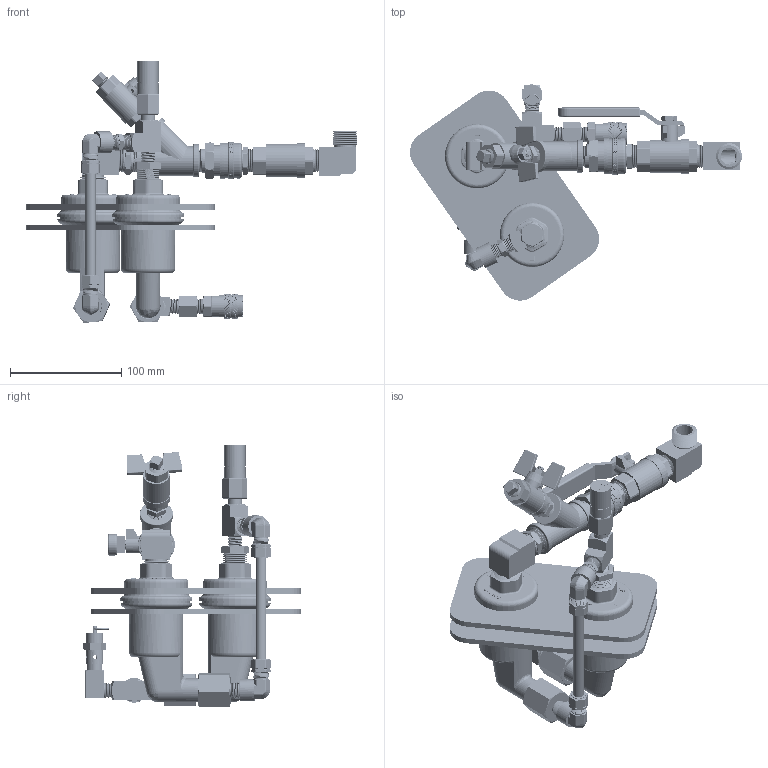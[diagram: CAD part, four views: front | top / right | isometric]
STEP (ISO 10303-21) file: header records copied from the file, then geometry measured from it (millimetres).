
FILE_DESCRIPTION(/* description */ (''),/* implementation_level */ '2;1');
FILE_NAME(/* name */ 'C:\Users\myoung\Box\ECS CAD Library\ECS Products\PAV-WNS Monitored Nitrogen Inerting Vent\Export\PAV-WNS.stp',/* time_stamp */ '2020-05-14T08:00:55-05:00',/* author */ ('myoung'),/* organization */ (''),/* preprocessor_version */ 'ST-DEVELOPER v18',/* originating_system */ 'Autodesk Inventor 2020',/* authorisation */ '');
FILE_SCHEMA (('AUTOMOTIVE_DESIGN { 1 0 10303 214 3 1 1 }'));
Products named in the file (1): PAV-WNS
Bounding box: 298.74 x 195.41 x 235.79 mm (x, y, z)
Volume: 756540.3 mm3; surface area: 251725.2 mm2
Topology: 6 solids, 6 shells, 11066 faces, 26298 edges, 14991 vertices
Faces by surface type: plane 8621, cylinder 1407, cone 703, bspline 262, torus 49, sphere 24
Full cylindrical faces by diameter (mm): 0.254 x1, 1.905 x1, 3.81 x5, 5.527 x9, 6.221 x8, 6.272 x1, 6.35 x3, 6.729 x1, 6.985 x2, 7.057 x10, 7.112 x2, 7.785 x9, 7.836 x2, 7.899 x1, 7.925 x5, 7.976 x2, 8.636 x1, 9.246 x1, 9.525 x1, 9.703 x4, 9.93 x1, 10.945 x1, 11.071 x1, 11.112 x4, 11.608 x1, 11.741 x2, 11.995 x2, 12.171 x2, 12.359 x2, 12.494 x1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
Entity records: 439968 total; most frequent: CARTESIAN_POINT 174173, DIRECTION 55200, ORIENTED_EDGE 52552, EDGE_CURVE 26276, AXIS2_PLACEMENT_3D 20141, VERTEX_POINT 14991, LINE 14918, VECTOR 14918
